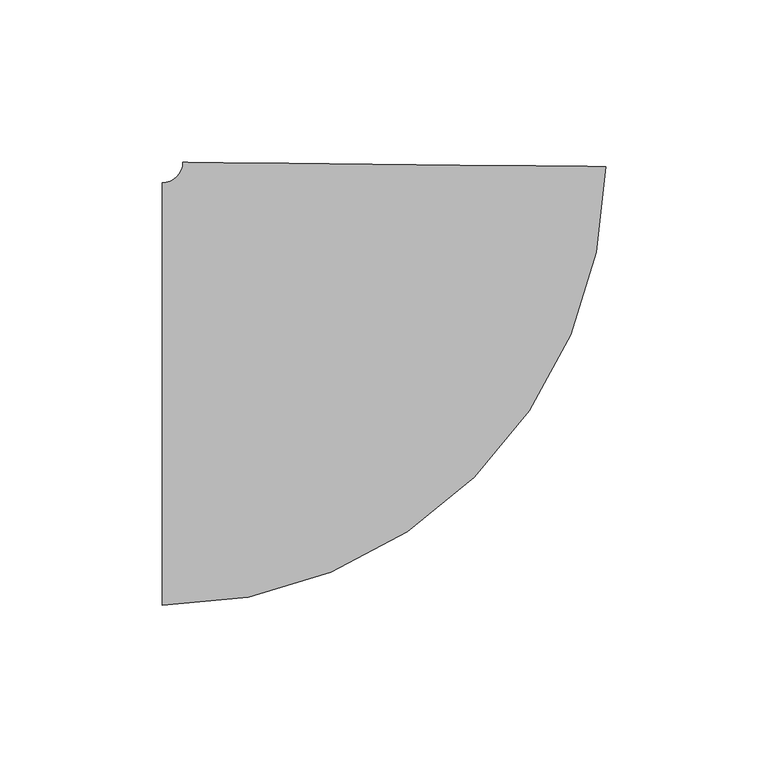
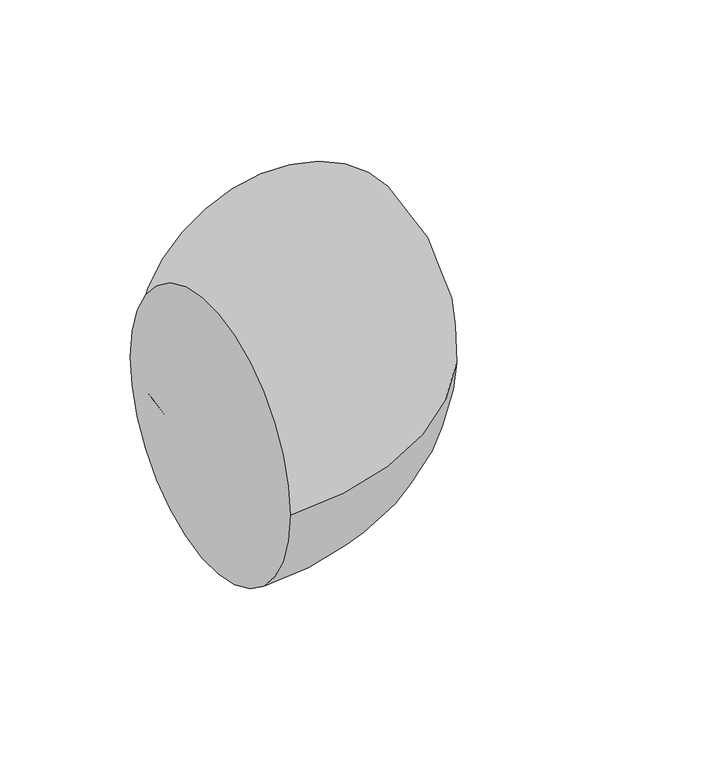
"""IFC4 building model written with IfcOpenShell, lengths in millimetres: pipe fitting geometry, M_Codo - Genérico : Estándar."""

import ifcopenshell
import ifcopenshell.guid

model = None  # the IFC model being written
_history = None  # IfcOwnerHistory: only IFC2X3 demands one
_inside = {}  # id of a spatial element -> (the spatial element, [elements in it])
_under = {}  # id of a project, library or spatial element -> (it, [spatial elements below it])
_declared = {}  # id of a project -> (the project, [libraries it declares])
_typed = {}  # id of a type object -> (the type object, [elements of that type])
_made_of = {}  # id of a material, layer set ... -> (it, [elements and type objects made of it])


def new_model(schema):
    """Start an empty IFC model of exactly this schema.

    Asked for "IFC4X3", IfcOpenShell would pick the latest addendum, in which some entities
    have other attributes; the version numbers below select the first issue.
    IFC2X3 requires an IfcOwnerHistory on every rooted entity: one is made here for all.
    """
    global model, _history
    if schema == "IFC4X3":
        model = ifcopenshell.file(schema_version=(4, 3, 0, 0))
    else:
        model = ifcopenshell.file(schema=schema)
    _inside.clear()
    _under.clear()
    _declared.clear()
    _typed.clear()
    _made_of.clear()
    _history = None
    if model.schema == "IFC2X3":
        org = make("IfcOrganization", Name="unknown")
        user = make(
            "IfcPersonAndOrganization",
            ThePerson=make("IfcPerson", FamilyName="unknown"),
            TheOrganization=org,
        )
        app = make(
            "IfcApplication",
            ApplicationDeveloper=org,
            Version="unknown",
            ApplicationFullName="unknown",
            ApplicationIdentifier="unknown",
        )
        _history = make(
            "IfcOwnerHistory",
            OwningUser=user,
            OwningApplication=app,
            ChangeAction="ADDED",
            CreationDate=0,
        )
    return model


def make(cls, **values):
    """One entity of the class cls with the attributes given. An attribute that is None is left unset."""
    return model.create_entity(
        cls, **{name: value for name, value in values.items() if value is not None}
    )


def rooted(cls, **values):
    """An entity with a GlobalId (a new one), such as an element, a storey or a relation."""
    return make(cls, GlobalId=ifcopenshell.guid.new(), OwnerHistory=_history, **values)


def si_unit(unit_type, name, prefix=None):
    """IfcSIUnit, for example si_unit("LENGTHUNIT", "METRE", prefix="MILLI")."""
    return make("IfcSIUnit", UnitType=unit_type, Prefix=prefix, Name=name)


def assignment(units):
    """IfcUnitAssignment: the units of a project."""
    return None if units is None else make("IfcUnitAssignment", Units=units)


def point(xyz):
    """IfcCartesianPoint."""
    return None if xyz is None else make("IfcCartesianPoint", Coordinates=xyz)


def direction(xyz):
    """IfcDirection."""
    return None if xyz is None else make("IfcDirection", DirectionRatios=xyz)


def frame(location, z_axis=None, x_axis=None):
    """IfcAxis2Placement3D, a coordinate frame: its origin and axes. An axis left out is left unset."""
    return make(
        "IfcAxis2Placement3D",
        Location=point(location),
        Axis=direction(z_axis),
        RefDirection=direction(x_axis),
    )


def origin():
    """The frame at (0, 0, 0) with its axes left unset."""
    return frame((0.0, 0.0, 0.0))


def place(relative_to, where):
    """IfcLocalPlacement: puts the frame where relative to a parent placement (None: the world)."""
    return make(
        "IfcLocalPlacement", PlacementRelTo=relative_to, RelativePlacement=where
    )


def context(
    kind, dimensions, precision=None, world=None, true_north=None, identifier=None
):
    """IfcGeometricRepresentationContext, for example the 3D "Model" context."""
    return make(
        "IfcGeometricRepresentationContext",
        ContextIdentifier=identifier,
        ContextType=kind,
        CoordinateSpaceDimension=dimensions,
        Precision=precision,
        WorldCoordinateSystem=world,
        TrueNorth=true_north,
    )


def project(units=None, contexts=None):
    """IfcProject with its units and contexts."""
    return rooted(
        "IfcProject",
        Name="project",
        RepresentationContexts=contexts,
        UnitsInContext=assignment(units),
    )


def spatial(cls, under=None, at=None, **own):
    """A site, building, storey or space (cls), placed at a placement, below another one or the project."""
    s = rooted(cls, ObjectPlacement=at, **own)
    if under is not None:
        _under.setdefault(under.id(), (under, []))[1].append(s)
    return s


def circle_curve(where, radius):
    """IfcCircle in the frame where."""
    return make("IfcCircle", Position=where, Radius=radius)


def ellipse_curve(where, semi_axis1, semi_axis2):
    """IfcEllipse in the frame where."""
    return make(
        "IfcEllipse", Position=where, SemiAxis1=semi_axis1, SemiAxis2=semi_axis2
    )


def trimmed(basis, trim1, trim2, sense, master):
    """IfcTrimmedCurve: the piece of a basis curve between two trims."""
    return make(
        "IfcTrimmedCurve",
        BasisCurve=basis,
        Trim1=trim1,
        Trim2=trim2,
        SenseAgreement=sense,
        MasterRepresentation=master,
    )


def shape(context_of_items, identifier, shape_type, items):
    """IfcShapeRepresentation: the items that make up one representation, for example the "Body"."""
    return make(
        "IfcShapeRepresentation",
        ContextOfItems=context_of_items,
        RepresentationIdentifier=identifier,
        RepresentationType=shape_type,
        Items=items,
    )


def source(mapping_origin, context_of_items, identifier, shape_type, items):
    """IfcRepresentationMap: a shape defined once, which mapped items show again and again."""
    return make(
        "IfcRepresentationMap",
        MappingOrigin=mapping_origin,
        MappedRepresentation=shape(context_of_items, identifier, shape_type, items),
    )


def transform(
    local_origin,
    x_axis=None,
    y_axis=None,
    z_axis=None,
    scale=None,
    scale2=None,
    scale3=None,
    uniform=True,
):
    """IfcCartesianTransformationOperator3D, or its non-uniform kind. x_axis, y_axis, z_axis: its Axis1, 2, 3."""
    if uniform:
        return make(
            "IfcCartesianTransformationOperator3D",
            Axis1=direction(x_axis),
            Axis2=direction(y_axis),
            LocalOrigin=point(local_origin),
            Scale=scale,
            Axis3=direction(z_axis),
        )
    return make(
        "IfcCartesianTransformationOperator3DnonUniform",
        Axis1=direction(x_axis),
        Axis2=direction(y_axis),
        LocalOrigin=point(local_origin),
        Scale=scale,
        Axis3=direction(z_axis),
        Scale2=scale2,
        Scale3=scale3,
    )


def mapped(mapping_source, mapping_target):
    """IfcMappedItem: shows the shape of a source again, moved by a transform."""
    return make(
        "IfcMappedItem", MappingSource=mapping_source, MappingTarget=mapping_target
    )


def made_of(thing, what):
    """Note that an element or type object is made of a material, layer set ...; save() writes the relation."""
    if what is not None:
        _made_of.setdefault(what.id(), (what, []))[1].append(thing)
    return thing


def element(
    cls,
    number,
    at=None,
    inside=None,
    cuts=None,
    type_object=None,
    material=None,
    context=None,
    identifier="Body",
    shape_type=None,
    held_by="IfcProductDefinitionShape",
    body=None,
    shapes=None,
    **own,
):
    """One element of the class cls, such as IfcWall. Its Tag is "e" and its number.

    at: its placement. inside: the storey or other place that contains it. cuts: it is an
    opening in that element (IfcRelVoidsElement). A single representation is given by context,
    identifier, shape_type and body (its items); several are given by shapes. held_by: the class
    of the entity that holds the representations. save() writes the other relations.
    """
    e = rooted(cls, Tag="e%d" % number, ObjectPlacement=at, **own)
    if body is not None:
        shapes = [shape(context, identifier, shape_type, body)]
    if shapes is not None:
        e.Representation = make(held_by, Representations=shapes)
    if inside is not None:
        _inside.setdefault(inside.id(), (inside, []))[1].append(e)
    if cuts is not None:
        rooted(
            "IfcRelVoidsElement", RelatingBuildingElement=cuts, RelatedOpeningElement=e
        )
    if type_object is not None:
        _typed.setdefault(type_object.id(), (type_object, []))[1].append(e)
    return made_of(e, material)


def aggregate(whole, parts):
    """IfcRelAggregates: a whole, such as a stair, and the parts it consists of."""
    return rooted("IfcRelAggregates", RelatingObject=whole, RelatedObjects=parts)


def save(model, path):
    """Write the relations noted so far, then the file.

    IfcRelAggregates (storeys below a building ...), IfcRelContainedInSpatialStructure (elements
    in a storey), IfcRelDefinesByType, IfcRelAssociatesMaterial and IfcRelDeclares: one each for
    every whole, place, type object, material and project.
    """
    for whole, parts in _under.values():
        aggregate(whole, parts)
    for where, things in _inside.values():
        rooted(
            "IfcRelContainedInSpatialStructure",
            RelatedElements=things,
            RelatingStructure=where,
        )
    for kind, things in _typed.values():
        rooted("IfcRelDefinesByType", RelatedObjects=things, RelatingType=kind)
    for what, things in _made_of.values():
        rooted("IfcRelAssociatesMaterial", RelatedObjects=things, RelatingMaterial=what)
    for by, libraries in _declared.values():
        rooted("IfcRelDeclares", RelatingContext=by, RelatedDefinitions=libraries)
    model.write(path)


def plane_surface(at):
    """IfcPlane: the flat surface through the origin of the frame at, square to its z axis."""
    return make("IfcPlane", Position=at)


def revolved_surface(curve, axis_point, axis_direction):
    """IfcSurfaceOfRevolution: the curve turned about the line through axis_point along axis_direction."""
    return make(
        "IfcSurfaceOfRevolution",
        SweptCurve=make("IfcArbitraryOpenProfileDef", ProfileType="CURVE", Curve=curve),
        AxisPosition=make("IfcAxis1Placement", Location=point(axis_point), Axis=direction(axis_direction)),
    )


def advanced_brep(points, edges, surfaces, faces):
    """IfcAdvancedBrep: a solid bounded by faces that lie on surfaces and meet in shared edges.

    An edge is (start, end): straight between two places in points (the first is 0);
    or (start, end, curve); or (start, end, curve, False) where it runs against its curve.
    A face is (place in surfaces, loops), or (place, loops, False) where it looks against
    its surface's normal. A loop lists edges by number (the first is 1), with a minus sign
    where the edge is run from its end to its start. The first loop is the outer one.
    """
    corners = [point(p) for p in points]
    vertices = [make("IfcVertexPoint", VertexGeometry=c) for c in corners]
    made = []
    for start, end, *more in edges:
        made.append(
            make(
                "IfcEdgeCurve",
                EdgeStart=vertices[start],
                EdgeEnd=vertices[end],
                EdgeGeometry=more[0] if more else make("IfcPolyline", Points=[corners[start], corners[end]]),
                SameSense=more[1] if len(more) > 1 else True,
            )
        )
    hull = []
    for where, loops, *sense in faces:
        bounds = []
        for j, loop in enumerate(loops):
            ring = [make("IfcOrientedEdge", EdgeElement=made[abs(k) - 1], Orientation=k > 0) for k in loop]
            bounds.append(
                make(
                    "IfcFaceOuterBound" if j == 0 else "IfcFaceBound",
                    Bound=make("IfcEdgeLoop", EdgeList=ring),
                    Orientation=True,
                )
            )
        hull.append(make("IfcAdvancedFace", Bounds=bounds, FaceSurface=surfaces[where], SameSense=sense[0] if sense else True))
    return make("IfcAdvancedBrep", Outer=make("IfcClosedShell", CfsFaces=hull))


def pipe_fitting_d33bdcc6(model_context):
    return source(origin(), model_context, "Body", "AdvancedBrep", [
        advanced_brep(
        [(-70.7269917, -65.0875, 0.0), (-70.7269917, 65.0875, 0.0), (65.7911883, 70.0728874, 0.0), (-64.3773089, 71.3740296, 0.0)],
        [
            (0, 1, circle_curve(frame((-70.7269917, 0.0, 0.0), z_axis=(-1.0, 0.0, 0.0), x_axis=(0.0, 1.0, 0.0)), 65.0875)),
            (1, 0, circle_curve(frame((-70.7269917, 0.0, 0.0), z_axis=(-1.0, 0.0, 0.0), x_axis=(0.0, 1.0, 0.0)), 65.0875)),
            (2, 3, circle_curve(frame((0.7069397, 70.7234585, 0.0), z_axis=(0.009995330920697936, 0.9999500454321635, 0.0), x_axis=(-0.9999500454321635, 0.009995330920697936, 0.0)), 65.0875)),
            (3, 2, circle_curve(frame((0.7069397, 70.7234585, 0.0), z_axis=(0.009995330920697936, 0.9999500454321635, 0.0), x_axis=(-0.9999500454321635, 0.009995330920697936, 0.0)), 65.0875)),
            (3, 1, circle_curve(frame((-70.7269917, 71.4375, 0.0), z_axis=(0.0, 0.0, -1.0), x_axis=(0.0, -1.0, 0.0)), 6.35)),
            (0, 2, circle_curve(frame((-70.7269917, 71.4375, 0.0), z_axis=(0.0, 0.0, 1.0), x_axis=(0.0, -1.0, 0.0)), 136.525)),
        ],
        [
            plane_surface(frame((-70.7269917, 0.0, 0.0), z_axis=(-1.0, 0.0, 0.0), x_axis=(0.0, 0.0, 1.0))),
            plane_surface(frame((0.7069397, 70.7234585, 0.0), z_axis=(0.009995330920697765, 0.9999500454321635, 0.0), x_axis=(0.0, 0.0, 1.0))),
            revolved_surface(trimmed(ellipse_curve(frame((-70.7269917, 0.0, 0.0), z_axis=(-1.0, 0.0, 0.0), x_axis=(0.0, 1.0, 0.0)), 65.0875, 65.0875), [point((-70.7269917, -65.0875, 0.0))], [point((-70.7269917, 65.0875, 0.0))], True, "CARTESIAN"), (-70.7269917, 71.4375, 0.0), (0.0, 0.0, 1.0)),
            revolved_surface(trimmed(ellipse_curve(frame((-70.7269917, 0.0, 0.0), z_axis=(-1.0, 0.0, 0.0), x_axis=(0.0, 1.0, 0.0)), 65.0875, 65.0875), [point((-70.7269917, 65.0875, 0.0))], [point((-70.7269917, -65.0875, 0.0))], True, "CARTESIAN"), (-70.7269917, 71.4375, 0.0), (0.0, 0.0, 1.0)),
        ],
        [
            (0, [[1, 2]]),
            (1, [[3, 4]]),
            (2, [[5, -1, 6, -4]]),
            (3, [[-6, -2, -5, -3]]),
        ],
    ),
    ])


if __name__ == "__main__":
    model = new_model("IFC4")
    model_context = context("Model", 3, world=origin())
    ifc_project = project(units=[si_unit("LENGTHUNIT", "METRE", prefix="MILLI")], contexts=[model_context])
    site = spatial("IfcSite", under=ifc_project)
    building = spatial("IfcBuilding", under=site)
    placement = place(None, origin())
    pipe_fitting_shape = pipe_fitting_d33bdcc6(model_context)
    element("IfcPipeFitting", 1, ObjectType="M_Codo - Genérico : Estándar", at=placement, inside=building, context=model_context, shape_type="MappedRepresentation", body=[
        mapped(pipe_fitting_shape, transform((0.0, 0.0, 0.0), x_axis=(1.0, 0.0, 0.0), y_axis=(0.0, 1.0, 0.0), z_axis=(0.0, 0.0, 1.0))),
    ])
    save(model, "model.ifc")
